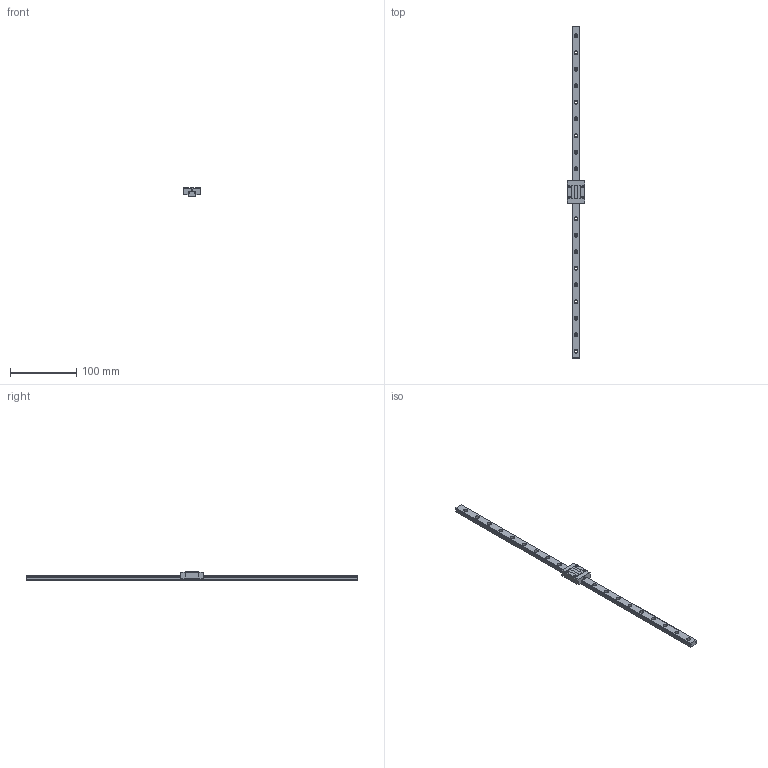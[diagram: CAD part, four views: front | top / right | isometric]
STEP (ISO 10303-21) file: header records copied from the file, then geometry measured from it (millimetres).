
FILE_DESCRIPTION (( 'STEP AP203' ), '1' );
FILE_NAME ('TM12NN-1-500-N.STEP', '2023-08-21T08:44:26', ( '' ), ( '' ), 'SwSTEP 2.0', 'SolidWorks 2022', '' );
FILE_SCHEMA (( 'CONFIG_CONTROL_DESIGN' ));
Length unit declared in the file: millimetre
Products named in the file (1): TM12NN-1-500-N
Bounding box: 27 x 500 x 13 mm (x, y, z)
Volume: 46801.9 mm3; surface area: 26685 mm2
Topology: 2 solids, 2 shells, 216 faces, 558 edges, 364 vertices
Faces by surface type: cylinder 124, plane 84, cone 8
Entity records: 6773 total; most frequent: DIRECTION 1232, CARTESIAN_POINT 1131, ORIENTED_EDGE 1100, EDGE_CURVE 550, AXIS2_PLACEMENT_3D 465, VERTEX_POINT 364, VECTOR 302, LINE 302
